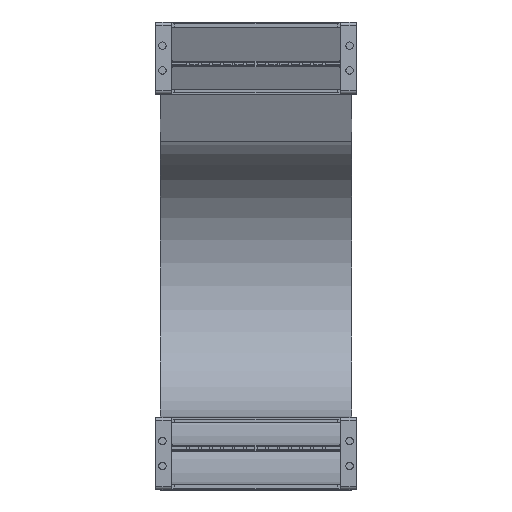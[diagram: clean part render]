
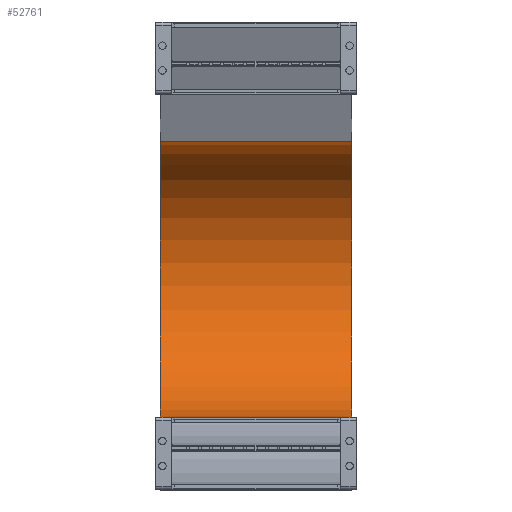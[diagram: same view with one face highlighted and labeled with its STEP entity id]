
A CAD part, top view. The second image highlights one B-rep face of the part: STEP entity #52761.
In plain terms, the highlighted cylindrical face has radius 123 mm (diameter 246 mm), a partial arc.
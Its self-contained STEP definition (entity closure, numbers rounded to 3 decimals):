
#51913=DIRECTION('',(-1.,0.,0.));
#51914=VECTOR('',#51913,170.);
#51915=CARTESIAN_POINT('',(85.,64.,-500.));
#51916=LINE('',#51915,#51914);
#51927=DIRECTION('',(-1.,0.,0.));
#51928=VECTOR('',#51927,170.);
#51929=CARTESIAN_POINT('',(85.,309.382,-512.314));
#51930=LINE('',#51929,#51928);
#51934=CARTESIAN_POINT('',(85.,187.,-500.));
#51935=DIRECTION('',(-1.,0.,0.));
#51936=DIRECTION('',(0.,0.995,-0.1));
#51937=AXIS2_PLACEMENT_3D('',#51934,#51935,#51936);
#52013=CARTESIAN_POINT('',(-85.,187.,-500.));
#52014=DIRECTION('',(-1.,0.,0.));
#52015=DIRECTION('',(0.,0.995,-0.1));
#52016=AXIS2_PLACEMENT_3D('',#52013,#52014,#52015);
#52135=CARTESIAN_POINT('',(85.,309.382,-512.314));
#52136=CARTESIAN_POINT('',(-85.,309.382,-512.314));
#52137=VERTEX_POINT('',#52135);
#52138=VERTEX_POINT('',#52136);
#52159=CARTESIAN_POINT('',(85.,64.,-500.));
#52160=CARTESIAN_POINT('',(-85.,64.,-500.));
#52161=VERTEX_POINT('',#52159);
#52162=VERTEX_POINT('',#52160);
#52747=CARTESIAN_POINT('',(1.,187.,-500.));
#52748=DIRECTION('',(-1.,0.,0.));
#52749=DIRECTION('',(0.,-0.995,0.1));
#52750=AXIS2_PLACEMENT_3D('',#52747,#52748,#52749);
#52751=CYLINDRICAL_SURFACE('',#52750,123.);
#52753=ORIENTED_EDGE('',*,*,#52752,.F.);
#52755=ORIENTED_EDGE('',*,*,#52754,.T.);
#52756=ORIENTED_EDGE('',*,*,#52730,.T.);
#52758=ORIENTED_EDGE('',*,*,#52757,.F.);
#52759=EDGE_LOOP('',(#52753,#52755,#52756,#52758));
#52760=FACE_OUTER_BOUND('',#52759,.F.);
#51938=CIRCLE('',#51937,123.);
#52017=CIRCLE('',#52016,123.);
#52730=EDGE_CURVE('',#52161,#52162,#51916,.T.);
#52752=EDGE_CURVE('',#52137,#52138,#51930,.T.);
#52754=EDGE_CURVE('',#52137,#52161,#51938,.T.);
#52757=EDGE_CURVE('',#52138,#52162,#52017,.T.);
#52761=ADVANCED_FACE('',(#52760),#52751,.F.);
